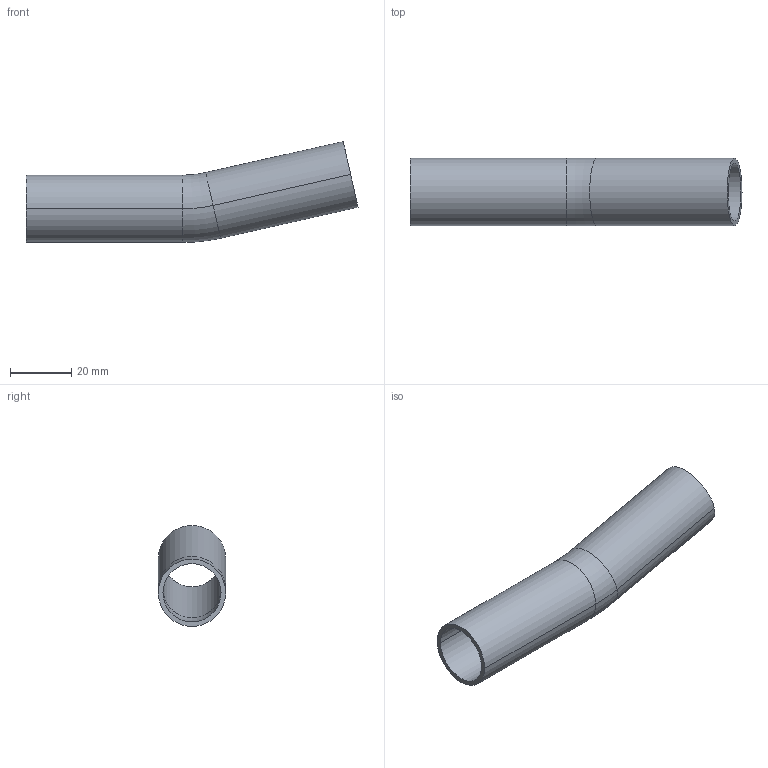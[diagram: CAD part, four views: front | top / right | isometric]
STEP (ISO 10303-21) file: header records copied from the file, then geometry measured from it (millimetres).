
FILE_DESCRIPTION(('CATIA V5 STEP Exchange','CAx-IF Rec.Pracs.--- Model Styling and Organization---1.2---2011-12-15'),'2;1');
FILE_NAME('c:\aplikace\smarteam\Temp\DO584736.step','2016-07-11T09:13:46+00:00',('none'),('none'),'CATIA Version 5 Release 21 SP 6 (IN-10)','CATIA V5 STEP AP214','none');
FILE_SCHEMA(('AUTOMOTIVE_DESIGN { 1 0 10303 214 1 1 1 1 }'));
Length unit declared in the file: millimetre
Products named in the file (1): DO584736, TRUBKA T1
Bounding box: 108.47 x 22 x 32.95 mm (x, y, z)
Volume: 10361.8 mm3; surface area: 14008.9 mm2
Topology: 1 solids, 1 shells, 14 faces, 28 edges, 16 vertices
Faces by surface type: cylinder 8, torus 4, plane 2
Entity records: 343 total; most frequent: ORIENTED_EDGE 56, CARTESIAN_POINT 53, DIRECTION 44, AXIS2_PLACEMENT_3D 29, EDGE_CURVE 28, CIRCLE 20, EDGE_LOOP 16, VERTEX_POINT 16
